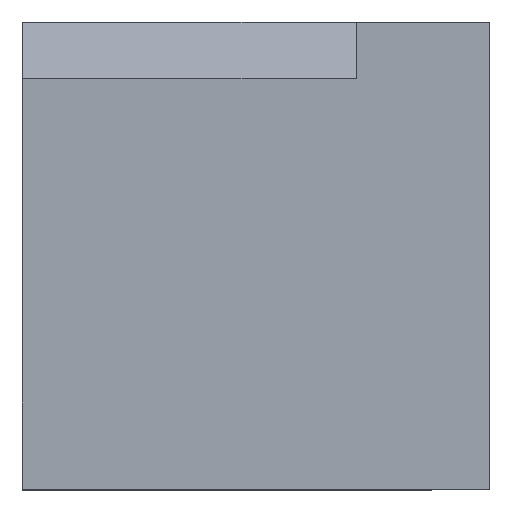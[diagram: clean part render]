
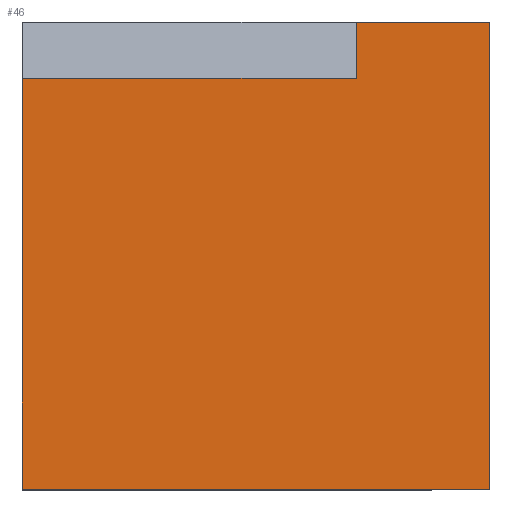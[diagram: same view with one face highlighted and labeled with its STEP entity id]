
A CAD part, top view. The second image highlights one B-rep face of the part: STEP entity #46.
In plain terms, the highlighted planar face has unit normal (0, 0, 1).
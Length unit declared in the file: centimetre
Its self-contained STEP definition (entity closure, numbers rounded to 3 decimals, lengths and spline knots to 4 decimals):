
#21 = CARTESIAN_POINT ( 'NONE',  ( 1000., 1000., 1000. ) ) ;
#41 = EDGE_CURVE ( 'NONE', #1344, #1018, #1315, .T. ) ;
#46 = ADVANCED_FACE ( 'NONE', ( #54 ), #374, .T. ) ;
#54 = FACE_OUTER_BOUND ( 'NONE', #418, .T. ) ;
#87 = CARTESIAN_POINT ( 'NONE',  ( 0., 1000., 1000. ) ) ;
#105 = DIRECTION ( 'NONE',  ( 1., 0., 0. ) ) ;
#191 = CARTESIAN_POINT ( 'NONE',  ( 0., 0., 1000. ) ) ;
#240 = CARTESIAN_POINT ( 'NONE',  ( 714.7156, 879.4728, 1000. ) ) ;
#261 = ORIENTED_EDGE ( 'NONE', *, *, #1308, .T. ) ;
#280 = EDGE_CURVE ( 'NONE', #1018, #1213, #820, .T. ) ;
#286 = CARTESIAN_POINT ( 'NONE',  ( 0., 1000., 1000. ) ) ;
#315 = CARTESIAN_POINT ( 'NONE',  ( 1000., 0., 1000. ) ) ;
#323 = ORIENTED_EDGE ( 'NONE', *, *, #745, .F. ) ;
#335 = LINE ( 'NONE', #1196, #832 ) ;
#374 = PLANE ( 'NONE',  #515 ) ;
#418 = EDGE_LOOP ( 'NONE', ( #1174, #941, #261, #747, #1123, #323 ) ) ;
#466 = CARTESIAN_POINT ( 'NONE',  ( 714.7156, 1000., 1000. ) ) ;
#506 = DIRECTION ( 'NONE',  ( 0., -1., 0. ) ) ;
#515 = AXIS2_PLACEMENT_3D ( 'NONE', #805, #1208, #1325 ) ;
#527 = LINE ( 'NONE', #87, #695 ) ;
#535 = EDGE_CURVE ( 'NONE', #917, #1377, #527, .T. ) ;
#547 = LINE ( 'NONE', #1103, #1047 ) ;
#565 = DIRECTION ( 'NONE',  ( 0., 1., 0. ) ) ;
#691 = CARTESIAN_POINT ( 'NONE',  ( 714.7156, 879.4728, 1000. ) ) ;
#695 = VECTOR ( 'NONE', #1266, 100. ) ;
#707 = VECTOR ( 'NONE', #105, 100. ) ;
#745 = EDGE_CURVE ( 'NONE', #1344, #1377, #335, .T. ) ;
#747 = ORIENTED_EDGE ( 'NONE', *, *, #1345, .T. ) ;
#805 = CARTESIAN_POINT ( 'NONE',  ( 0., 0., 1000. ) ) ;
#807 = VECTOR ( 'NONE', #1120, 100. ) ;
#820 = LINE ( 'NONE', #286, #1141 ) ;
#832 = VECTOR ( 'NONE', #1199, 100. ) ;
#917 = VERTEX_POINT ( 'NONE', #21 ) ;
#941 = ORIENTED_EDGE ( 'NONE', *, *, #280, .T. ) ;
#1018 = VERTEX_POINT ( 'NONE', #1240 ) ;
#1047 = VECTOR ( 'NONE', #565, 100. ) ;
#1070 = CARTESIAN_POINT ( 'NONE',  ( 0., 0., 1000. ) ) ;
#1103 = CARTESIAN_POINT ( 'NONE',  ( 1000., 1000., 1000. ) ) ;
#1120 = DIRECTION ( 'NONE',  ( -1., 0., 0. ) ) ;
#1123 = ORIENTED_EDGE ( 'NONE', *, *, #535, .T. ) ;
#1141 = VECTOR ( 'NONE', #506, 100. ) ;
#1174 = ORIENTED_EDGE ( 'NONE', *, *, #41, .T. ) ;
#1196 = CARTESIAN_POINT ( 'NONE',  ( 714.7156, 1000., 1000. ) ) ;
#1199 = DIRECTION ( 'NONE',  ( 0., 1., 0. ) ) ;
#1208 = DIRECTION ( 'NONE',  ( 0., 0., 1. ) ) ;
#1213 = VERTEX_POINT ( 'NONE', #191 ) ;
#1237 = VERTEX_POINT ( 'NONE', #315 ) ;
#1240 = CARTESIAN_POINT ( 'NONE',  ( 0., 879.4728, 1000. ) ) ;
#1266 = DIRECTION ( 'NONE',  ( -1., 0., 0. ) ) ;
#1308 = EDGE_CURVE ( 'NONE', #1213, #1237, #1384, .T. ) ;
#1315 = LINE ( 'NONE', #691, #807 ) ;
#1325 = DIRECTION ( 'NONE',  ( 1., 0., 0. ) ) ;
#1344 = VERTEX_POINT ( 'NONE', #240 ) ;
#1345 = EDGE_CURVE ( 'NONE', #1237, #917, #547, .T. ) ;
#1377 = VERTEX_POINT ( 'NONE', #466 ) ;
#1384 = LINE ( 'NONE', #1070, #707 ) ;
